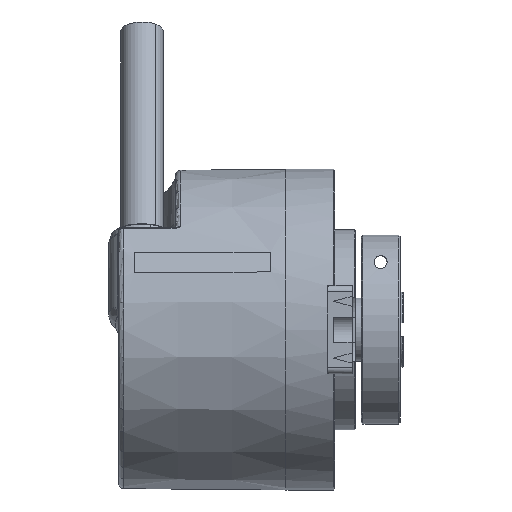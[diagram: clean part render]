
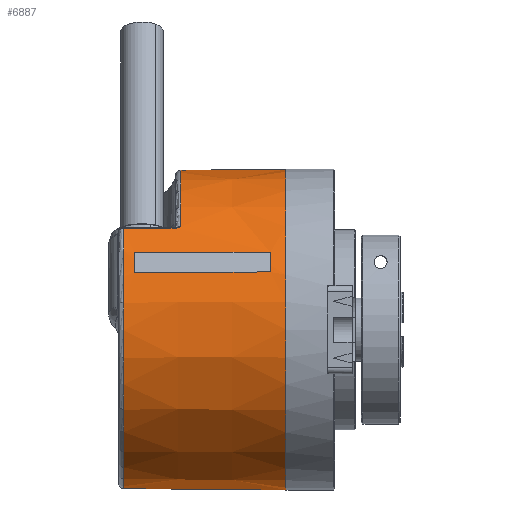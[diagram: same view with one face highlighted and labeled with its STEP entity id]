
A CAD part, front view. The second image highlights one B-rep face of the part: STEP entity #6887.
In plain terms, the highlighted conical face has half-angle 0.5 degrees and reference radius 25.4 mm.
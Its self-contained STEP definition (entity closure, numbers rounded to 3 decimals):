
#82 = CARTESIAN_POINT ( 'NONE',  ( -20.207, -19.395, 16.051 ) ) ;
#83 = CARTESIAN_POINT ( 'NONE',  ( -18.111, -19.412, 16.059 ) ) ;
#84 = CARTESIAN_POINT ( 'NONE',  ( -16.015, -19.43, 16.067 ) ) ;
#94 = CARTESIAN_POINT ( 'NONE',  ( -13.918, -19.447, 16.075 ) ) ;
#95 = CARTESIAN_POINT ( 'NONE',  ( -13.385, -19.451, 16.077 ) ) ;
#96 = CARTESIAN_POINT ( 'NONE',  ( -12.852, -19.455, 16.079 ) ) ;
#97 = CARTESIAN_POINT ( 'NONE',  ( -12.318, -19.46, 16.081 ) ) ;
#98 = CARTESIAN_POINT ( 'NONE',  ( -12.185, -19.461, 16.082 ) ) ;
#99 = CARTESIAN_POINT ( 'NONE',  ( -12.052, -19.462, 16.082 ) ) ;
#100 = CARTESIAN_POINT ( 'NONE',  ( -11.918, -19.463, 16.083 ) ) ;
#108 = CARTESIAN_POINT ( 'NONE',  ( -11.918, -19.463, 16.083 ) ) ;
#110 = B_SPLINE_CURVE_WITH_KNOTS ( 'NONE', 3,
 ( #100, #99, #98, #97, #96, #95, #94, #84, #83, #82 ),
 .UNSPECIFIED., .F., .F.,
 ( 4, 3, 3, 4 ),
 ( 0., 0., 0.002, 0.008 ),
 .UNSPECIFIED. ) ;
#117 = DIRECTION ( 'NONE',  ( 1., 0., 0. ) ) ;
#118 = AXIS2_PLACEMENT_3D ( 'NONE', #177, #117, #134 ) ;
#119 = CONICAL_SURFACE ( 'NONE', #118, 25.4, 0.009 ) ;
#134 = DIRECTION ( 'NONE',  ( 0., 0., -1. ) ) ;
#177 = CARTESIAN_POINT ( 'NONE',  ( 5.5, 0., 0. ) ) ;
#1087 = FACE_BOUND ( 'NONE', #6860, .T. ) ;
#1088 = FACE_OUTER_BOUND ( 'NONE', #6884, .T. ) ;
#1791 = EDGE_CURVE ( 'NONE', #6446, #1803, #11492, .T. ) ;
#1803 = VERTEX_POINT ( 'NONE', #11530 ) ;
#1900 = VERTEX_POINT ( 'NONE', #11990 ) ;
#2082 = EDGE_CURVE ( 'NONE', #1900, #6476, #7685, .T. ) ;
#3690 = CARTESIAN_POINT ( 'NONE',  ( 5.5, 0., 25.4 ) ) ;
#3744 = DIRECTION ( 'NONE',  ( 1., 0., 0.009 ) ) ;
#3745 = VECTOR ( 'NONE', #3744, 1000. ) ;
#3746 = CARTESIAN_POINT ( 'NONE',  ( 5.5, 0., 25.4 ) ) ;
#3747 = LINE ( 'NONE', #3746, #3745 ) ;
#3762 = CARTESIAN_POINT ( 'NONE',  ( -20.207, 0., -25.176 ) ) ;
#3793 = DIRECTION ( 'NONE',  ( 1., 0., -0.009 ) ) ;
#3794 = VECTOR ( 'NONE', #3793, 1000. ) ;
#3795 = CARTESIAN_POINT ( 'NONE',  ( 5.5, 0., -25.4 ) ) ;
#3796 = LINE ( 'NONE', #3795, #3794 ) ;
#3797 = CARTESIAN_POINT ( 'NONE',  ( 5.5, 0., -25.4 ) ) ;
#3803 = CARTESIAN_POINT ( 'NONE',  ( -11.207, 0., 25.254 ) ) ;
#4022 = B_SPLINE_CURVE_WITH_KNOTS ( 'NONE', 3,
 ( #4076, #4096, #4077, #4102, #4075, #4109, #4093 ),
 .UNSPECIFIED., .F., .F.,
 ( 4, 3, 4 ),
 ( 0.019, 0.022, 0.041 ),
 .UNSPECIFIED. ) ;
#4075 = CARTESIAN_POINT ( 'NONE',  ( -9.541, -23.573, 9.101 ) ) ;
#4076 = CARTESIAN_POINT ( 'NONE',  ( -18.5, -23.501, 9.071 ) ) ;
#4077 = CARTESIAN_POINT ( 'NONE',  ( -16.708, -23.515, 9.077 ) ) ;
#4093 = CARTESIAN_POINT ( 'NONE',  ( 3., -23.674, 9.144 ) ) ;
#4096 = CARTESIAN_POINT ( 'NONE',  ( -17.604, -23.508, 9.074 ) ) ;
#4102 = CARTESIAN_POINT ( 'NONE',  ( -15.812, -23.522, 9.08 ) ) ;
#4109 = CARTESIAN_POINT ( 'NONE',  ( -3.271, -23.623, 9.123 ) ) ;
#5053 = DIRECTION ( 'NONE',  ( 0., 0., -1. ) ) ;
#5054 = DIRECTION ( 'NONE',  ( 1., 0., 0. ) ) ;
#5055 = CARTESIAN_POINT ( 'NONE',  ( 5.5, 0., 0. ) ) ;
#5056 = AXIS2_PLACEMENT_3D ( 'NONE', #5055, #5054, #5053 ) ;
#5057 = CIRCLE ( 'NONE', #5056, 25.4 ) ;
#5138 = DIRECTION ( 'NONE',  ( 0., 0., -1. ) ) ;
#5139 = DIRECTION ( 'NONE',  ( -1., 0., 0. ) ) ;
#5140 = CARTESIAN_POINT ( 'NONE',  ( 3., 0., 0. ) ) ;
#5141 = AXIS2_PLACEMENT_3D ( 'NONE', #5140, #5139, #5138 ) ;
#5142 = CIRCLE ( 'NONE', #5141, 25.378 ) ;
#5329 = CARTESIAN_POINT ( 'NONE',  ( -18.5, -23.501, 9.071 ) ) ;
#5413 = CARTESIAN_POINT ( 'NONE',  ( 3., -23.674, 9.144 ) ) ;
#5435 = DIRECTION ( 'NONE',  ( 0., 0., -1. ) ) ;
#5436 = DIRECTION ( 'NONE',  ( -1., 0., 0. ) ) ;
#5437 = CARTESIAN_POINT ( 'NONE',  ( -18.5, 0., 0. ) ) ;
#5438 = AXIS2_PLACEMENT_3D ( 'NONE', #5437, #5436, #5435 ) ;
#5443 = CIRCLE ( 'NONE', #5438, 25.191 ) ;
#5460 = CARTESIAN_POINT ( 'NONE',  ( -18.5, -22.055, 12.172 ) ) ;
#5471 = CARTESIAN_POINT ( 'NONE',  ( 3., -22.222, 12.257 ) ) ;
#6437 = VERTEX_POINT ( 'NONE', #3690 ) ;
#6446 = VERTEX_POINT ( 'NONE', #3803 ) ;
#6448 = VERTEX_POINT ( 'NONE', #3797 ) ;
#6450 = EDGE_CURVE ( 'NONE', #6476, #6448, #3796, .T. ) ;
#6476 = VERTEX_POINT ( 'NONE', #3762 ) ;
#6484 = EDGE_CURVE ( 'NONE', #6446, #6437, #3747, .T. ) ;
#6558 = EDGE_CURVE ( 'NONE', #6850, #6841, #4022, .T. ) ;
#6782 = EDGE_CURVE ( 'NONE', #6841, #6816, #5142, .T. ) ;
#6795 = EDGE_CURVE ( 'NONE', #6437, #6448, #5057, .T. ) ;
#6816 = VERTEX_POINT ( 'NONE', #5471 ) ;
#6820 = VERTEX_POINT ( 'NONE', #5460 ) ;
#6823 = EDGE_CURVE ( 'NONE', #6850, #6820, #5443, .T. ) ;
#6841 = VERTEX_POINT ( 'NONE', #5413 ) ;
#6850 = VERTEX_POINT ( 'NONE', #5329 ) ;
#6854 = VERTEX_POINT ( 'NONE', #108 ) ;
#6855 = ORIENTED_EDGE ( 'NONE', *, *, #6856, .T. ) ;
#6856 = EDGE_CURVE ( 'NONE', #6854, #1900, #110, .T. ) ;
#6857 = ORIENTED_EDGE ( 'NONE', *, *, #2082, .T. ) ;
#6858 = ORIENTED_EDGE ( 'NONE', *, *, #6450, .T. ) ;
#6859 = ORIENTED_EDGE ( 'NONE', *, *, #6795, .F. ) ;
#6860 = EDGE_LOOP ( 'NONE', ( #6861, #6862, #6935, #6936 ) ) ;
#6861 = ORIENTED_EDGE ( 'NONE', *, *, #6558, .F. ) ;
#6862 = ORIENTED_EDGE ( 'NONE', *, *, #6823, .T. ) ;
#6878 = ORIENTED_EDGE ( 'NONE', *, *, #6484, .F. ) ;
#6884 = EDGE_LOOP ( 'NONE', ( #6878, #6895, #6896, #6855, #6857, #6858, #6859 ) ) ;
#6887 = ADVANCED_FACE ( 'NONE', ( #1088, #1087 ), #119, .T. ) ;
#6895 = ORIENTED_EDGE ( 'NONE', *, *, #1791, .T. ) ;
#6896 = ORIENTED_EDGE ( 'NONE', *, *, #6897, .T. ) ;
#6897 = EDGE_CURVE ( 'NONE', #1803, #6854, #8173, .T. ) ;
#6935 = ORIENTED_EDGE ( 'NONE', *, *, #6961, .F. ) ;
#6936 = ORIENTED_EDGE ( 'NONE', *, *, #6782, .F. ) ;
#6961 = EDGE_CURVE ( 'NONE', #6816, #6820, #12294, .T. ) ;
#7679 = DIRECTION ( 'NONE',  ( 1., 0., 0. ) ) ;
#7680 = CARTESIAN_POINT ( 'NONE',  ( -20.207, 0., 0. ) ) ;
#7685 = CIRCLE ( 'NONE', #7689, 25.176 ) ;
#7689 = AXIS2_PLACEMENT_3D ( 'NONE', #7680, #7679, #7719 ) ;
#7719 = DIRECTION ( 'NONE',  ( 0., 0., -1. ) ) ;
#8165 = CARTESIAN_POINT ( 'NONE',  ( -11.918, -19.463, 16.083 ) ) ;
#8166 = CARTESIAN_POINT ( 'NONE',  ( -11.785, -19.464, 16.083 ) ) ;
#8167 = CARTESIAN_POINT ( 'NONE',  ( -11.656, -19.442, 16.111 ) ) ;
#8168 = CARTESIAN_POINT ( 'NONE',  ( -11.418, -19.373, 16.198 ) ) ;
#8169 = CARTESIAN_POINT ( 'NONE',  ( -11.31, -19.325, 16.257 ) ) ;
#8170 = CARTESIAN_POINT ( 'NONE',  ( -11.207, -19.272, 16.321 ) ) ;
#8173 = B_SPLINE_CURVE_WITH_KNOTS ( 'NONE', 3,
 ( #8170, #8169, #8168, #8167, #8166, #8165 ),
 .UNSPECIFIED., .F., .F.,
 ( 4, 2, 4 ),
 ( 0., 0., 0.001 ),
 .UNSPECIFIED. ) ;
#11488 = DIRECTION ( 'NONE',  ( 0., 0., 1. ) ) ;
#11489 = DIRECTION ( 'NONE',  ( 1., 0., 0. ) ) ;
#11490 = CARTESIAN_POINT ( 'NONE',  ( -11.207, 0., 0. ) ) ;
#11491 = AXIS2_PLACEMENT_3D ( 'NONE', #11490, #11489, #11488 ) ;
#11492 = CIRCLE ( 'NONE', #11491, 25.254 ) ;
#11530 = CARTESIAN_POINT ( 'NONE',  ( -11.207, -19.272, 16.321 ) ) ;
#11990 = CARTESIAN_POINT ( 'NONE',  ( -20.207, -19.395, 16.051 ) ) ;
#12292 = CARTESIAN_POINT ( 'NONE',  ( 3., -22.222, 12.257 ) ) ;
#12294 = B_SPLINE_CURVE_WITH_KNOTS ( 'NONE', 3,
 ( #12292, #12336, #12335, #12334, #12333, #12332, #12331 ),
 .UNSPECIFIED., .F., .F.,
 ( 4, 3, 4 ),
 ( 0.003, 0.022, 0.025 ),
 .UNSPECIFIED. ) ;
#12331 = CARTESIAN_POINT ( 'NONE',  ( -18.5, -22.055, 12.172 ) ) ;
#12332 = CARTESIAN_POINT ( 'NONE',  ( -17.603, -22.061, 12.176 ) ) ;
#12333 = CARTESIAN_POINT ( 'NONE',  ( -16.707, -22.068, 12.179 ) ) ;
#12334 = CARTESIAN_POINT ( 'NONE',  ( -15.81, -22.075, 12.183 ) ) ;
#12335 = CARTESIAN_POINT ( 'NONE',  ( -9.54, -22.124, 12.208 ) ) ;
#12336 = CARTESIAN_POINT ( 'NONE',  ( -3.27, -22.173, 12.232 ) ) ;
